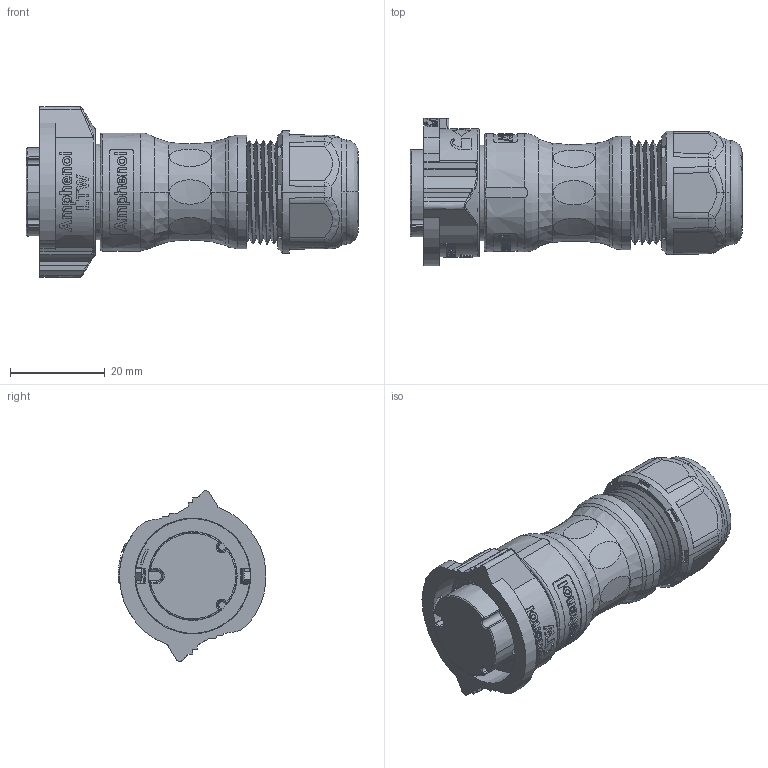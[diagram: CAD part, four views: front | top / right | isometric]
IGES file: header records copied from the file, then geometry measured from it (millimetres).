
Start section:  PTC IGES file: DX-XXBFFA-QL8XX0.igs
Global section: file name: DX-XXBFFA-QL8XX0.igs; native system: Creo Parametric by Parametric Technology Corporation; preprocessor: 2013050; author: LT1040; organization: Unknown; date: 20161103.193030; units: millimetre
Bounding box: 70.15 x 31.26 x 36 mm (x, y, z)
Volume: 20233.9 mm3; surface area: 16814.2 mm2
Topology: 1 solids, 1 shells, 1329 faces, 3686 edges, 2400 vertices
Faces by surface type: bspline 708, revolution 369, extrusion 252
